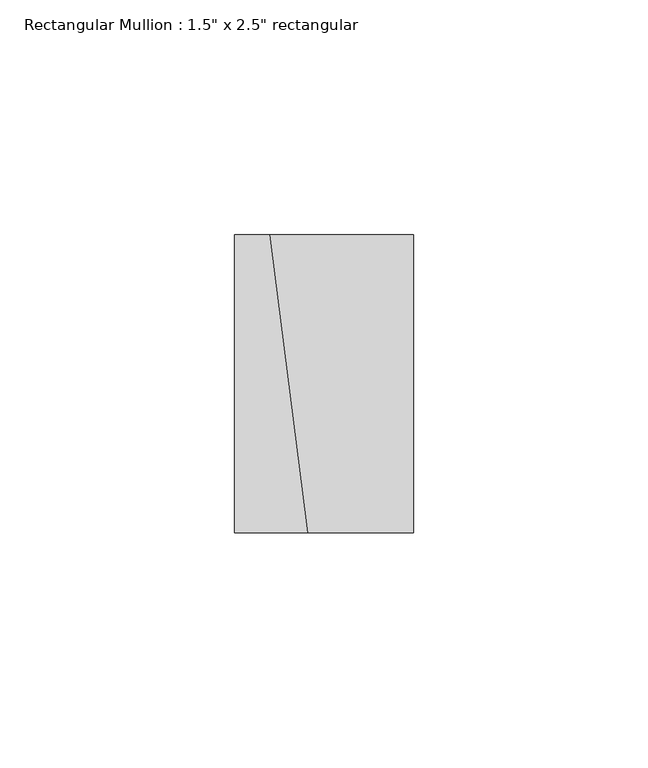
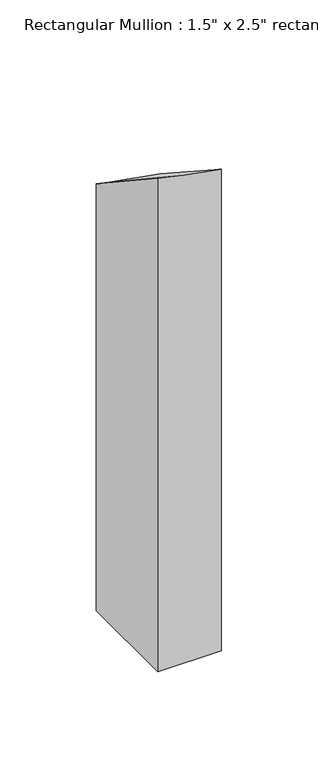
"""IFC4 building model written with IfcOpenShell, lengths in millimetres: member geometry."""

from ifc_helpers import new_model, si_unit, origin, place, context, project, spatial, faceted_brep, source, transform, mapped, element, save


def member_18c55287(model_context):
    return source(origin(), model_context, "Body", "Brep", [
        faceted_brep([(19.05, 31.75, -325.7288529), (19.05, -31.75, -325.7288529), (-19.05, -31.75, -325.7288529), (-19.05, 31.75, -325.7288529), (-19.05, 31.75, -55.2277263), (-11.5122186, 31.75, -56.9948291), (19.05, 31.75, -62.1887228), (-19.05, -31.75, -13.3494178), (19.05, -31.75, -20.8312462), (-3.4357803, -31.75, -17.0099022)], [[[0, 1, 2, 3]], [[4, 5, 6, 0, 3]], [[7, 4, 3, 2]], [[8, 9, 7, 2, 1]], [[6, 8, 1, 0]], [[6, 5, 9, 8]], [[5, 4, 7, 9]]]),
    ])


if __name__ == "__main__":
    model = new_model("IFC4")
    model_context = context("Model", 3, world=origin())
    ifc_project = project(units=[si_unit("LENGTHUNIT", "METRE", prefix="MILLI")], contexts=[model_context])
    site = spatial("IfcSite", under=ifc_project)
    building = spatial("IfcBuilding", under=site)
    placement = place(None, origin())
    member_shape = member_18c55287(model_context)
    element("IfcMember", 1, ObjectType="Rectangular Mullion : 1.5\" x 2.5\" rectangular", at=placement, inside=building, context=model_context, shape_type="MappedRepresentation", body=[
        mapped(member_shape, transform((0.0, 0.0, 0.0), x_axis=(1.0, 0.0, 0.0), y_axis=(0.0, 1.0, 0.0), z_axis=(0.0, 0.0, 1.0))),
    ])
    save(model, "model.ifc")
